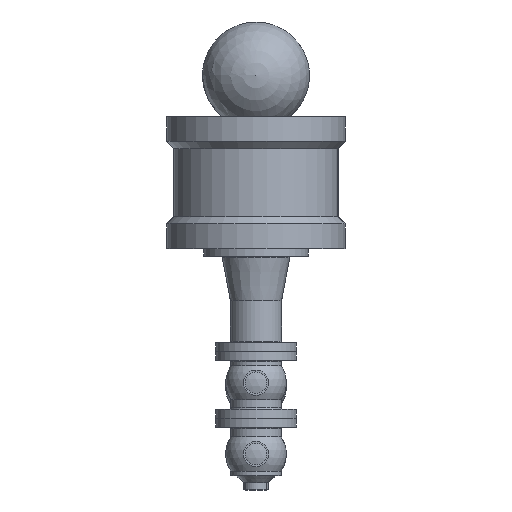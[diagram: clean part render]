
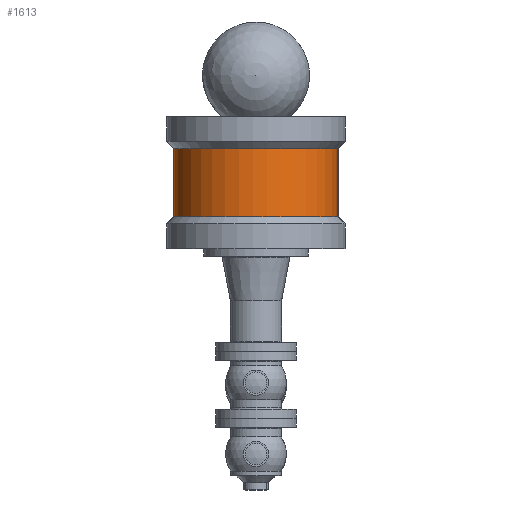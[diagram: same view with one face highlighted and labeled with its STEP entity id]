
A CAD part, front view. The second image highlights one B-rep face of the part: STEP entity #1613.
In plain terms, the highlighted cylindrical face has radius 110.5 mm (diameter 221 mm), a full revolution.
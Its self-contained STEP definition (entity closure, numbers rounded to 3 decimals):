
#211=LINE('',#2916,#254);
#254=VECTOR('',#2268,110.5);
#295=CYLINDRICAL_SURFACE('',#1892,110.5);
#343=FACE_OUTER_BOUND('',#443,.T.);
#443=EDGE_LOOP('',(#1195,#1196,#1197,#1198,#1199,#1200));
#579=CIRCLE('',#1890,110.5);
#580=CIRCLE('',#1891,110.5);
#581=CIRCLE('',#1893,110.5);
#582=CIRCLE('',#1894,110.5);
#757=VERTEX_POINT('',#2906);
#758=VERTEX_POINT('',#2907);
#759=VERTEX_POINT('',#2912);
#760=VERTEX_POINT('',#2913);
#932=EDGE_CURVE('',#757,#758,#579,.T.);
#933=EDGE_CURVE('',#758,#757,#580,.T.);
#935=EDGE_CURVE('',#759,#760,#581,.T.);
#936=EDGE_CURVE('',#760,#759,#582,.T.);
#937=EDGE_CURVE('',#760,#758,#211,.T.);
#1195=ORIENTED_EDGE('',*,*,#935,.F.);
#1196=ORIENTED_EDGE('',*,*,#936,.F.);
#1197=ORIENTED_EDGE('',*,*,#937,.T.);
#1198=ORIENTED_EDGE('',*,*,#933,.T.);
#1199=ORIENTED_EDGE('',*,*,#932,.T.);
#1200=ORIENTED_EDGE('',*,*,#937,.F.);
#1613=ADVANCED_FACE('',(#343),#295,.T.);
#1890=AXIS2_PLACEMENT_3D('',#2908,#2257,#2258);
#1891=AXIS2_PLACEMENT_3D('',#2909,#2259,#2260);
#1892=AXIS2_PLACEMENT_3D('',#2911,#2262,#2263);
#1893=AXIS2_PLACEMENT_3D('',#2914,#2264,#2265);
#1894=AXIS2_PLACEMENT_3D('',#2915,#2266,#2267);
#2257=DIRECTION('center_axis',(-1.,0.,0.));
#2258=DIRECTION('ref_axis',(0.,0.,1.));
#2259=DIRECTION('center_axis',(-1.,0.,0.));
#2260=DIRECTION('ref_axis',(0.,0.,1.));
#2262=DIRECTION('center_axis',(-1.,0.,0.));
#2263=DIRECTION('ref_axis',(0.,0.,1.));
#2264=DIRECTION('center_axis',(-1.,0.,0.));
#2265=DIRECTION('ref_axis',(0.,0.,1.));
#2266=DIRECTION('center_axis',(-1.,0.,0.));
#2267=DIRECTION('ref_axis',(0.,0.,1.));
#2268=DIRECTION('',(1.,0.,0.));
#2906=CARTESIAN_POINT('',(-46.,0.,110.5));
#2907=CARTESIAN_POINT('',(-46.,0.,-110.5));
#2908=CARTESIAN_POINT('Origin',(-46.,0.,0.));
#2909=CARTESIAN_POINT('Origin',(-46.,0.,0.));
#2911=CARTESIAN_POINT('Origin',(-92.,0.,0.));
#2912=CARTESIAN_POINT('',(-138.,0.,110.5));
#2913=CARTESIAN_POINT('',(-138.,0.,-110.5));
#2914=CARTESIAN_POINT('Origin',(-138.,0.,0.));
#2915=CARTESIAN_POINT('Origin',(-138.,0.,0.));
#2916=CARTESIAN_POINT('',(-92.,0.,-110.5));
